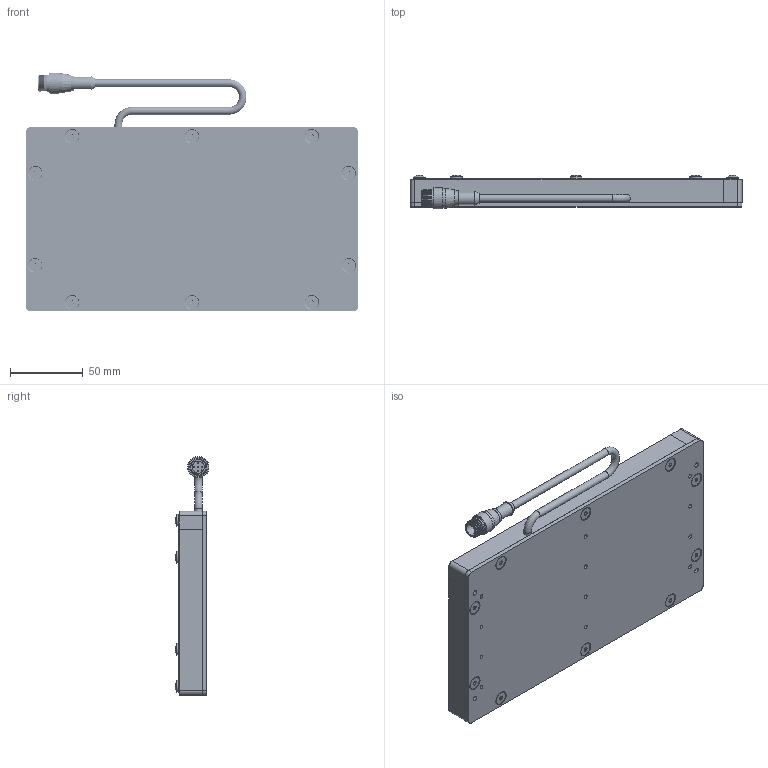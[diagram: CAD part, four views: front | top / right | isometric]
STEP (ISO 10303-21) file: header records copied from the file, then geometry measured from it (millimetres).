
FILE_DESCRIPTION (( 'STEP AP214' ), '1' );
FILE_NAME ('SBL48-XXX.STEP', '2026-04-17T19:06:43', ( '' ), ( '' ), 'SwSTEP 2.0', 'SolidWorks 2025', '' );
FILE_SCHEMA (( 'AUTOMOTIVE_DESIGN' ));
Length unit declared in the file: inch
Products named in the file (12): BackPlate BLYYXX_0408; 8-32 x 0.375 FHCS (92210A192)_92210A192; SBL3 to 18in rail_08in No CG; SBL3 to 18in rail_08in rail; SC Pigtail Complete 18_5pin; WD-SBLYYXX_4x8 with holes; 8-32 x .375 Nylon Screw_.375" 94611A192; Hex Standoff .375 x 8-32; MC Pigtail 24; M12 Connector 4,5 and 8 pin_RS4.5T; SBL48-XXX; SBL3 to 18in rail_04in No CG
Assembly tree (39 placements, depth 3):
  SBL48-XXX
    BackPlate BLYYXX_0408
    SBL3 to 18in rail_08in rail
    SBL3 to 18in rail_08in No CG
    SBL3 to 18in rail_04in No CG  x2
    SC Pigtail Complete 18_5pin
      MC Pigtail 24
      M12 Connector 4,5 and 8 pin_RS4.5T
    WD-SBLYYXX_4x8 with holes
    Hex Standoff .375 x 8-32  x10
    8-32 x 0.375 FHCS (92210A192)_92210A192  x10
    8-32 x .375 Nylon Screw_.375" 94611A192  x10
Bounding box: 228.6 x 23.38 x 164.53 mm (x, y, z)
Volume: 288745.2 mm3; surface area: 177954.6 mm2
Topology: 38 solids, 38 shells, 1198 faces, 2986 edges, 1905 vertices
Faces by surface type: plane 451, bspline 270, cylinder 260, cone 179, torus 23, sphere 15
Full cylindrical faces by diameter (mm): 0.762 x5, 2.705 x12, 3.454 x14, 4.496 x30, 5.207 x3, 6.604 x8, 6.858 x10, 8.128 x10, 8.382 x1, 8.636 x1, 9.119 x10, 10.16 x1, 10.541 x1, 11.938 x1, 13.716 x2, 14.732 x1
Entity records: 17241 total; most frequent: CARTESIAN_POINT 5855, DIRECTION 2073, ORIENTED_EDGE 1784, EDGE_CURVE 892, AXIS2_PLACEMENT_3D 842, EDGE_LOOP 659, VERTEX_POINT 653, FACE_OUTER_BOUND 498
